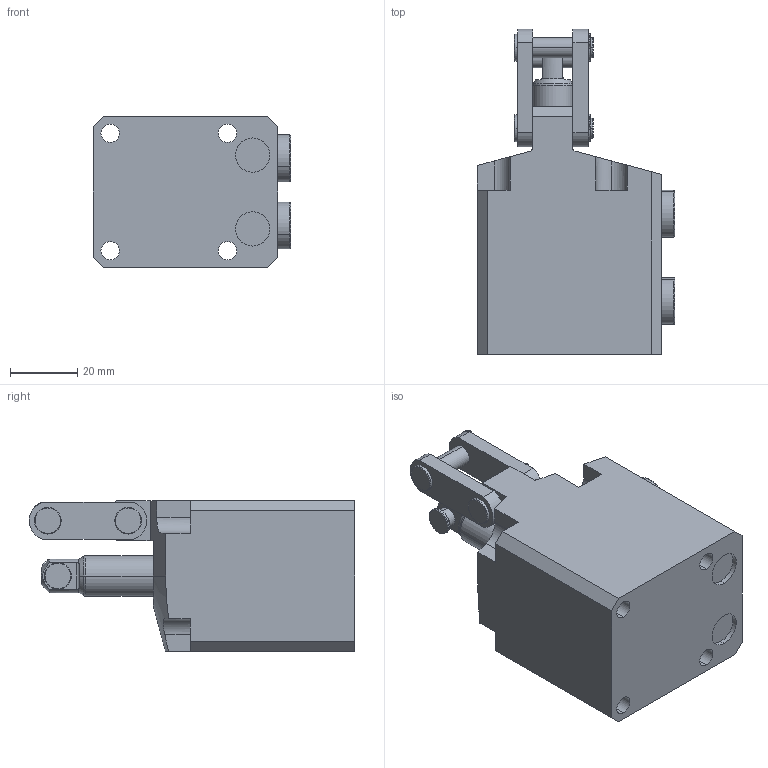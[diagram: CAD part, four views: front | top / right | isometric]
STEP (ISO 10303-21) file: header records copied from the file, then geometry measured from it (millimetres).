
FILE_DESCRIPTION(/* description */ (''),/* implementation_level */ '2;1');
FILE_NAME(/* name */ 'BPC02-L.stp',/* time_stamp */ '2025-01-05T10:06:01+08:00',/* author */ (''),/* organization */ (''),/* preprocessor_version */ 'ST-DEVELOPER v16.7',/* originating_system */ 'SIEMENS PLM Software NX 12.0',/* authorisation */ '');
FILE_SCHEMA (('AUTOMOTIVE_DESIGN { 1 0 10303 214 3 1 1 1 }'));
Length unit declared in the file: millimetre
Products named in the file (5): BPC02-L-03; BPC02-L-04; BPC02-L-01; BPC02-L-02; BPC02-L_stp
Assembly tree (5 placements, depth 2):
  BPC02-L_stp
    BPC02-L-02
    BPC02-L-01
    BPC02-L-04  x2
    BPC02-L-03
Bounding box: 58.8 x 96.99 x 45 mm (x, y, z)
Volume: 141570.5 mm3; surface area: 27530.5 mm2
Topology: 5 solids, 5 shells, 272 faces, 679 edges, 436 vertices
Faces by surface type: plane 127, cylinder 107, torus 20, cone 18
Entity records: 7802 total; most frequent: CARTESIAN_POINT 1450, DIRECTION 1371, ORIENTED_EDGE 1266, EDGE_CURVE 633, AXIS2_PLACEMENT_3D 509, VERTEX_POINT 408, LINE 353, VECTOR 353
